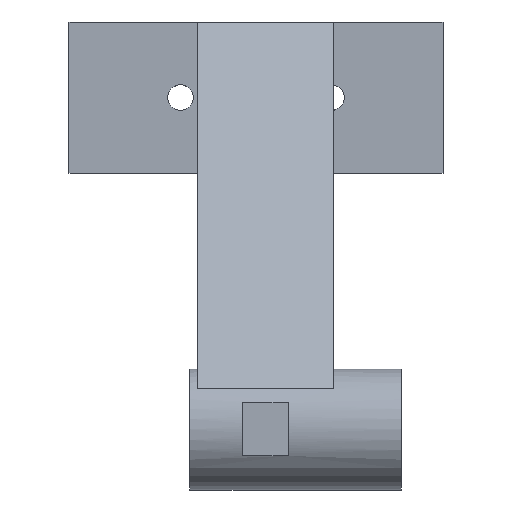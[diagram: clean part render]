
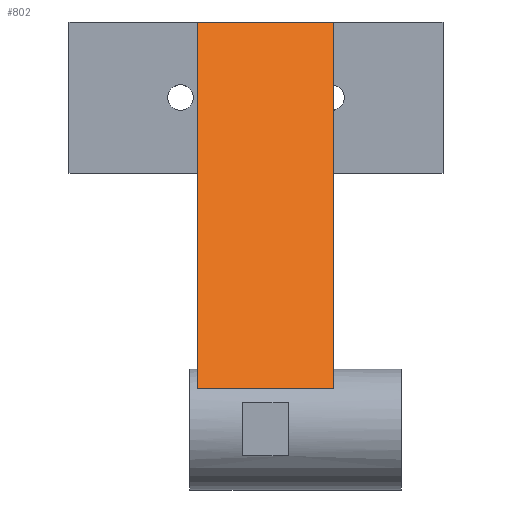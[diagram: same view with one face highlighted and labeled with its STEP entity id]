
A CAD part, top view. The second image highlights one B-rep face of the part: STEP entity #802.
In plain terms, the highlighted planar face has unit normal (0, 0.634, 0.773).
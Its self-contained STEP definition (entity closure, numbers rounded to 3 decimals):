
#32 = CYLINDRICAL_SURFACE('',#33,8.);
#33 = AXIS2_PLACEMENT_3D('',#34,#35,#36);
#34 = CARTESIAN_POINT('',(-10.,0.,0.));
#35 = DIRECTION('',(-1.,0.,-0.));
#36 = DIRECTION('',(-0.,1.,-0.));
#100 = PLANE('',#101);
#101 = AXIS2_PLACEMENT_3D('',#102,#103,#104);
#102 = CARTESIAN_POINT('',(-9.,22.414,-18.152));
#103 = DIRECTION('',(1.,-0.,-0.));
#104 = DIRECTION('',(0.,0.,-1.));
#157 = PLANE('',#158);
#158 = AXIS2_PLACEMENT_3D('',#159,#160,#161);
#159 = CARTESIAN_POINT('',(9.,22.414,-18.152));
#160 = DIRECTION('',(1.,-0.,-0.));
#161 = DIRECTION('',(0.,0.,-1.));
#225 = VERTEX_POINT('',#226);
#226 = CARTESIAN_POINT('',(9.,5.432,5.873));
#248 = EDGE_CURVE('',#225,#249,#251,.T.);
#249 = VERTEX_POINT('',#250);
#250 = CARTESIAN_POINT('',(-9.,5.432,5.873));
#251 = SURFACE_CURVE('',#252,(#256,#263),.PCURVE_S1.);
#252 = LINE('',#253,#254);
#253 = CARTESIAN_POINT('',(-10.,5.432,5.873));
#254 = VECTOR('',#255,1.);
#255 = DIRECTION('',(-1.,0.,-0.));
#256 = PCURVE('',#32,#257);
#257 = DEFINITIONAL_REPRESENTATION('',(#258),#262);
#258 = LINE('',#259,#260);
#259 = CARTESIAN_POINT('',(5.459,0.));
#260 = VECTOR('',#261,1.);
#261 = DIRECTION('',(0.,1.));
#262 = ( GEOMETRIC_REPRESENTATION_CONTEXT(2) 
PARAMETRIC_REPRESENTATION_CONTEXT() REPRESENTATION_CONTEXT('2D SPACE',''
  ) );
#263 = PCURVE('',#264,#269);
#264 = PLANE('',#265);
#265 = AXIS2_PLACEMENT_3D('',#266,#267,#268);
#266 = CARTESIAN_POINT('',(-9.,4.702,6.472));
#267 = DIRECTION('',(-0.,-0.635,-0.773));
#268 = DIRECTION('',(-0.,-0.773,0.635));
#269 = DEFINITIONAL_REPRESENTATION('',(#270),#274);
#270 = LINE('',#271,#272);
#271 = CARTESIAN_POINT('',(-0.945,1.));
#272 = VECTOR('',#273,1.);
#273 = DIRECTION('',(-0.,1.));
#274 = ( GEOMETRIC_REPRESENTATION_CONTEXT(2) 
PARAMETRIC_REPRESENTATION_CONTEXT() REPRESENTATION_CONTEXT('2D SPACE',''
  ) );
#701 = EDGE_CURVE('',#249,#702,#704,.T.);
#702 = VERTEX_POINT('',#703);
#703 = CARTESIAN_POINT('',(-9.,54.,-34.));
#704 = SURFACE_CURVE('',#705,(#709,#716),.PCURVE_S1.);
#705 = LINE('',#706,#707);
#706 = CARTESIAN_POINT('',(-9.,4.702,6.472));
#707 = VECTOR('',#708,1.);
#708 = DIRECTION('',(0.,0.773,-0.635));
#709 = PCURVE('',#100,#710);
#710 = DEFINITIONAL_REPRESENTATION('',(#711),#715);
#711 = LINE('',#712,#713);
#712 = CARTESIAN_POINT('',(-24.624,-17.711));
#713 = VECTOR('',#714,1.);
#714 = DIRECTION('',(0.635,0.773));
#715 = ( GEOMETRIC_REPRESENTATION_CONTEXT(2) 
PARAMETRIC_REPRESENTATION_CONTEXT() REPRESENTATION_CONTEXT('2D SPACE',''
  ) );
#716 = PCURVE('',#264,#717);
#717 = DEFINITIONAL_REPRESENTATION('',(#718),#722);
#718 = LINE('',#719,#720);
#719 = CARTESIAN_POINT('',(-0.,-0.));
#720 = VECTOR('',#721,1.);
#721 = DIRECTION('',(-1.,0.));
#722 = ( GEOMETRIC_REPRESENTATION_CONTEXT(2) 
PARAMETRIC_REPRESENTATION_CONTEXT() REPRESENTATION_CONTEXT('2D SPACE',''
  ) );
#802 = ADVANCED_FACE('',(#803),#264,.F.);
#803 = FACE_BOUND('',#804,.T.);
#804 = EDGE_LOOP('',(#805,#806,#807,#830));
#805 = ORIENTED_EDGE('',*,*,#701,.F.);
#806 = ORIENTED_EDGE('',*,*,#248,.F.);
#807 = ORIENTED_EDGE('',*,*,#808,.T.);
#808 = EDGE_CURVE('',#225,#809,#811,.T.);
#809 = VERTEX_POINT('',#810);
#810 = CARTESIAN_POINT('',(9.,54.,-34.));
#811 = SURFACE_CURVE('',#812,(#816,#823),.PCURVE_S1.);
#812 = LINE('',#813,#814);
#813 = CARTESIAN_POINT('',(9.,4.702,6.472));
#814 = VECTOR('',#815,1.);
#815 = DIRECTION('',(0.,0.773,-0.635));
#816 = PCURVE('',#264,#817);
#817 = DEFINITIONAL_REPRESENTATION('',(#818),#822);
#818 = LINE('',#819,#820);
#819 = CARTESIAN_POINT('',(-0.,-18.));
#820 = VECTOR('',#821,1.);
#821 = DIRECTION('',(-1.,0.));
#822 = ( GEOMETRIC_REPRESENTATION_CONTEXT(2) 
PARAMETRIC_REPRESENTATION_CONTEXT() REPRESENTATION_CONTEXT('2D SPACE',''
  ) );
#823 = PCURVE('',#157,#824);
#824 = DEFINITIONAL_REPRESENTATION('',(#825),#829);
#825 = LINE('',#826,#827);
#826 = CARTESIAN_POINT('',(-24.624,-17.711));
#827 = VECTOR('',#828,1.);
#828 = DIRECTION('',(0.635,0.773));
#829 = ( GEOMETRIC_REPRESENTATION_CONTEXT(2) 
PARAMETRIC_REPRESENTATION_CONTEXT() REPRESENTATION_CONTEXT('2D SPACE',''
  ) );
#830 = ORIENTED_EDGE('',*,*,#831,.F.);
#831 = EDGE_CURVE('',#702,#809,#832,.T.);
#832 = SURFACE_CURVE('',#833,(#837,#844),.PCURVE_S1.);
#833 = LINE('',#834,#835);
#834 = CARTESIAN_POINT('',(-9.,54.,-34.));
#835 = VECTOR('',#836,1.);
#836 = DIRECTION('',(1.,-0.,-0.));
#837 = PCURVE('',#264,#838);
#838 = DEFINITIONAL_REPRESENTATION('',(#839),#843);
#839 = LINE('',#840,#841);
#840 = CARTESIAN_POINT('',(-63.783,0.));
#841 = VECTOR('',#842,1.);
#842 = DIRECTION('',(-0.,-1.));
#843 = ( GEOMETRIC_REPRESENTATION_CONTEXT(2) 
PARAMETRIC_REPRESENTATION_CONTEXT() REPRESENTATION_CONTEXT('2D SPACE',''
  ) );
#844 = PCURVE('',#845,#850);
#845 = PLANE('',#846);
#846 = AXIS2_PLACEMENT_3D('',#847,#848,#849);
#847 = CARTESIAN_POINT('',(-9.,54.,-34.));
#848 = DIRECTION('',(-0.,-1.,-0.));
#849 = DIRECTION('',(0.,0.,1.));
#850 = DEFINITIONAL_REPRESENTATION('',(#851),#855);
#851 = LINE('',#852,#853);
#852 = CARTESIAN_POINT('',(-0.,-0.));
#853 = VECTOR('',#854,1.);
#854 = DIRECTION('',(-0.,-1.));
#855 = ( GEOMETRIC_REPRESENTATION_CONTEXT(2) 
PARAMETRIC_REPRESENTATION_CONTEXT() REPRESENTATION_CONTEXT('2D SPACE',''
  ) );
